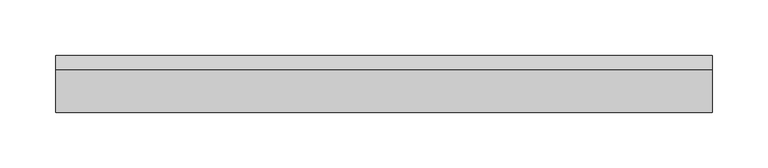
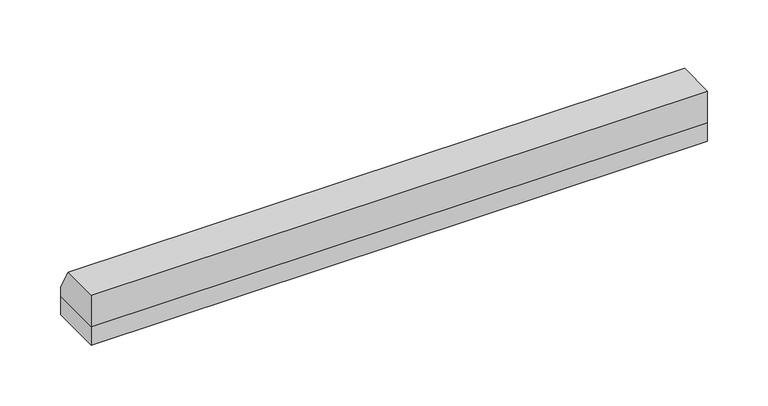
"""IFC4 building model written with IfcOpenShell, lengths in millimetres: proxy geometry, Spinneybeck_ARO Plank 7 : B - 2’-7” x 2” x 1 1/4”."""

import ifcopenshell
import ifcopenshell.guid

model = None  # the IFC model being written
_history = None  # IfcOwnerHistory: only IFC2X3 demands one
_inside = {}  # id of a spatial element -> (the spatial element, [elements in it])
_under = {}  # id of a project, library or spatial element -> (it, [spatial elements below it])
_declared = {}  # id of a project -> (the project, [libraries it declares])
_typed = {}  # id of a type object -> (the type object, [elements of that type])
_made_of = {}  # id of a material, layer set ... -> (it, [elements and type objects made of it])


def new_model(schema):
    """Start an empty IFC model of exactly this schema.

    Asked for "IFC4X3", IfcOpenShell would pick the latest addendum, in which some entities
    have other attributes; the version numbers below select the first issue.
    IFC2X3 requires an IfcOwnerHistory on every rooted entity: one is made here for all.
    """
    global model, _history
    if schema == "IFC4X3":
        model = ifcopenshell.file(schema_version=(4, 3, 0, 0))
    else:
        model = ifcopenshell.file(schema=schema)
    _inside.clear()
    _under.clear()
    _declared.clear()
    _typed.clear()
    _made_of.clear()
    _history = None
    if model.schema == "IFC2X3":
        org = make("IfcOrganization", Name="unknown")
        user = make(
            "IfcPersonAndOrganization",
            ThePerson=make("IfcPerson", FamilyName="unknown"),
            TheOrganization=org,
        )
        app = make(
            "IfcApplication",
            ApplicationDeveloper=org,
            Version="unknown",
            ApplicationFullName="unknown",
            ApplicationIdentifier="unknown",
        )
        _history = make(
            "IfcOwnerHistory",
            OwningUser=user,
            OwningApplication=app,
            ChangeAction="ADDED",
            CreationDate=0,
        )
    return model


def make(cls, **values):
    """One entity of the class cls with the attributes given. An attribute that is None is left unset."""
    return model.create_entity(
        cls, **{name: value for name, value in values.items() if value is not None}
    )


def rooted(cls, **values):
    """An entity with a GlobalId (a new one), such as an element, a storey or a relation."""
    return make(cls, GlobalId=ifcopenshell.guid.new(), OwnerHistory=_history, **values)


def si_unit(unit_type, name, prefix=None):
    """IfcSIUnit, for example si_unit("LENGTHUNIT", "METRE", prefix="MILLI")."""
    return make("IfcSIUnit", UnitType=unit_type, Prefix=prefix, Name=name)


def assignment(units):
    """IfcUnitAssignment: the units of a project."""
    return None if units is None else make("IfcUnitAssignment", Units=units)


def point(xyz):
    """IfcCartesianPoint."""
    return None if xyz is None else make("IfcCartesianPoint", Coordinates=xyz)


def direction(xyz):
    """IfcDirection."""
    return None if xyz is None else make("IfcDirection", DirectionRatios=xyz)


def frame(location, z_axis=None, x_axis=None):
    """IfcAxis2Placement3D, a coordinate frame: its origin and axes. An axis left out is left unset."""
    return make(
        "IfcAxis2Placement3D",
        Location=point(location),
        Axis=direction(z_axis),
        RefDirection=direction(x_axis),
    )


def origin():
    """The frame at (0, 0, 0) with its axes left unset."""
    return frame((0.0, 0.0, 0.0))


def origin_with_axes():
    """The frame at (0, 0, 0) with the z axis (0, 0, 1) and the x axis (1, 0, 0) written out."""
    return frame((0.0, 0.0, 0.0), z_axis=(0.0, 0.0, 1.0), x_axis=(1.0, 0.0, 0.0))


def place(relative_to, where):
    """IfcLocalPlacement: puts the frame where relative to a parent placement (None: the world)."""
    return make(
        "IfcLocalPlacement", PlacementRelTo=relative_to, RelativePlacement=where
    )


def context(
    kind, dimensions, precision=None, world=None, true_north=None, identifier=None
):
    """IfcGeometricRepresentationContext, for example the 3D "Model" context."""
    return make(
        "IfcGeometricRepresentationContext",
        ContextIdentifier=identifier,
        ContextType=kind,
        CoordinateSpaceDimension=dimensions,
        Precision=precision,
        WorldCoordinateSystem=world,
        TrueNorth=true_north,
    )


def project(units=None, contexts=None):
    """IfcProject with its units and contexts."""
    return rooted(
        "IfcProject",
        Name="project",
        RepresentationContexts=contexts,
        UnitsInContext=assignment(units),
    )


def spatial(cls, under=None, at=None, **own):
    """A site, building, storey or space (cls), placed at a placement, below another one or the project."""
    s = rooted(cls, ObjectPlacement=at, **own)
    if under is not None:
        _under.setdefault(under.id(), (under, []))[1].append(s)
    return s


def polyline(points):
    """IfcPolyline through the points."""
    return make("IfcPolyline", Points=[point(p) for p in points])


def outline(outer, holes=None, kind="AREA"):
    """IfcArbitraryClosedProfileDef: a profile drawn as a closed curve; with holes, ...WithVoids."""
    if holes is None:
        return make("IfcArbitraryClosedProfileDef", ProfileType=kind, OuterCurve=outer)
    return make(
        "IfcArbitraryProfileDefWithVoids",
        ProfileType=kind,
        OuterCurve=outer,
        InnerCurves=holes,
    )


def extrude(swept, where, along, depth):
    """IfcExtrudedAreaSolid: the profile swept, set in the frame where, extruded along a direction by depth."""
    return make(
        "IfcExtrudedAreaSolid",
        SweptArea=swept,
        Position=where,
        ExtrudedDirection=direction(along),
        Depth=depth,
    )


def shape(context_of_items, identifier, shape_type, items):
    """IfcShapeRepresentation: the items that make up one representation, for example the "Body"."""
    return make(
        "IfcShapeRepresentation",
        ContextOfItems=context_of_items,
        RepresentationIdentifier=identifier,
        RepresentationType=shape_type,
        Items=items,
    )


def source(mapping_origin, context_of_items, identifier, shape_type, items):
    """IfcRepresentationMap: a shape defined once, which mapped items show again and again."""
    return make(
        "IfcRepresentationMap",
        MappingOrigin=mapping_origin,
        MappedRepresentation=shape(context_of_items, identifier, shape_type, items),
    )


def transform(
    local_origin,
    x_axis=None,
    y_axis=None,
    z_axis=None,
    scale=None,
    scale2=None,
    scale3=None,
    uniform=True,
):
    """IfcCartesianTransformationOperator3D, or its non-uniform kind. x_axis, y_axis, z_axis: its Axis1, 2, 3."""
    if uniform:
        return make(
            "IfcCartesianTransformationOperator3D",
            Axis1=direction(x_axis),
            Axis2=direction(y_axis),
            LocalOrigin=point(local_origin),
            Scale=scale,
            Axis3=direction(z_axis),
        )
    return make(
        "IfcCartesianTransformationOperator3DnonUniform",
        Axis1=direction(x_axis),
        Axis2=direction(y_axis),
        LocalOrigin=point(local_origin),
        Scale=scale,
        Axis3=direction(z_axis),
        Scale2=scale2,
        Scale3=scale3,
    )


def mapped(mapping_source, mapping_target):
    """IfcMappedItem: shows the shape of a source again, moved by a transform."""
    return make(
        "IfcMappedItem", MappingSource=mapping_source, MappingTarget=mapping_target
    )


def made_of(thing, what):
    """Note that an element or type object is made of a material, layer set ...; save() writes the relation."""
    if what is not None:
        _made_of.setdefault(what.id(), (what, []))[1].append(thing)
    return thing


def element(
    cls,
    number,
    at=None,
    inside=None,
    cuts=None,
    type_object=None,
    material=None,
    context=None,
    identifier="Body",
    shape_type=None,
    held_by="IfcProductDefinitionShape",
    body=None,
    shapes=None,
    **own,
):
    """One element of the class cls, such as IfcWall. Its Tag is "e" and its number.

    at: its placement. inside: the storey or other place that contains it. cuts: it is an
    opening in that element (IfcRelVoidsElement). A single representation is given by context,
    identifier, shape_type and body (its items); several are given by shapes. held_by: the class
    of the entity that holds the representations. save() writes the other relations.
    """
    e = rooted(cls, Tag="e%d" % number, ObjectPlacement=at, **own)
    if body is not None:
        shapes = [shape(context, identifier, shape_type, body)]
    if shapes is not None:
        e.Representation = make(held_by, Representations=shapes)
    if inside is not None:
        _inside.setdefault(inside.id(), (inside, []))[1].append(e)
    if cuts is not None:
        rooted(
            "IfcRelVoidsElement", RelatingBuildingElement=cuts, RelatedOpeningElement=e
        )
    if type_object is not None:
        _typed.setdefault(type_object.id(), (type_object, []))[1].append(e)
    return made_of(e, material)


def aggregate(whole, parts):
    """IfcRelAggregates: a whole, such as a stair, and the parts it consists of."""
    return rooted("IfcRelAggregates", RelatingObject=whole, RelatedObjects=parts)


def save(model, path):
    """Write the relations noted so far, then the file.

    IfcRelAggregates (storeys below a building ...), IfcRelContainedInSpatialStructure (elements
    in a storey), IfcRelDefinesByType, IfcRelAssociatesMaterial and IfcRelDeclares: one each for
    every whole, place, type object, material and project.
    """
    for whole, parts in _under.values():
        aggregate(whole, parts)
    for where, things in _inside.values():
        rooted(
            "IfcRelContainedInSpatialStructure",
            RelatedElements=things,
            RelatingStructure=where,
        )
    for kind, things in _typed.values():
        rooted("IfcRelDefinesByType", RelatedObjects=things, RelatingType=kind)
    for what, things in _made_of.values():
        rooted("IfcRelAssociatesMaterial", RelatedObjects=things, RelatingMaterial=what)
    for by, libraries in _declared.values():
        rooted("IfcRelDeclares", RelatingContext=by, RelatedDefinitions=libraries)
    model.write(path)


def specialty_equipment_86a735bd(model_context):
    return source(origin(), model_context, "Body", "SweptSolid", [
        extrude(outline(polyline([(25.4, 19.05), (-25.4, 19.05), (-25.4, 50.8), (12.4059581, 50.8), (25.4, 28.2936592), (25.4, 19.05)])), frame((-294.0207011, 0.0, 0.0), z_axis=(1.0, 0.0, 0.0), x_axis=(0.0, 1.0, 0.0)), (0.0, 0.0, 1.0), 588.0414022),
        extrude(outline(polyline([(-294.0207011, -25.4), (-294.0207011, 25.4), (294.0207011, 25.4), (294.0207011, -25.4), (-294.0207011, -25.4)])), origin_with_axes(), (0.0, 0.0, 1.0), 19.05),
    ])


if __name__ == "__main__":
    model = new_model("IFC4")
    model_context = context("Model", 3, world=origin())
    ifc_project = project(units=[si_unit("LENGTHUNIT", "METRE", prefix="MILLI")], contexts=[model_context])
    site = spatial("IfcSite", under=ifc_project)
    building = spatial("IfcBuilding", under=site)
    placement = place(None, origin())
    specialty_equipment_shape = specialty_equipment_86a735bd(model_context)
    element("IfcBuildingElementProxy", 1, Name="Spinneybeck_ARO Plank 7 : B - 2’-7” x 2” x 1 1/4”", ObjectType="Spinneybeck_ARO Plank 7 : B - 2’-7” x 2” x 1 1/4”", at=placement, inside=building, context=model_context, shape_type="MappedRepresentation", body=[
        mapped(specialty_equipment_shape, transform((0.0, 0.0, 0.0), x_axis=(1.0, 0.0, 0.0), y_axis=(0.0, 1.0, 0.0), z_axis=(0.0, 0.0, 1.0))),
    ])
    save(model, "model.ifc")
